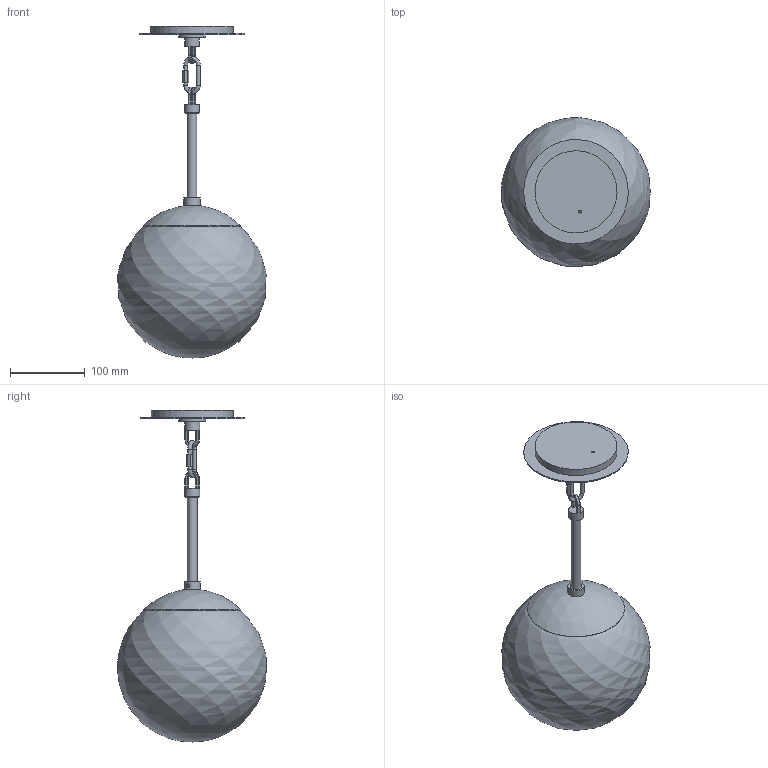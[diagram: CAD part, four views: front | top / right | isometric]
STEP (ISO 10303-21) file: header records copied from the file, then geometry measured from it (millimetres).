
FILE_DESCRIPTION(/* description */ (''),/* implementation_level */ '2;1');
FILE_NAME(/* name */ 'T:\B197 Opal Pendant 200\Pliki bryłowe handlowe\B197 Glass Globe Opal 200 3D files_na stronę\B197 Glass Globe Opal 200.stp',/* time_stamp */ '2022-02-02T15:12:00+01:00',/* author */ ('Mariusz Awariusz'),/* organization */ (''),/* preprocessor_version */ 'ST-DEVELOPER v18.1',/* originating_system */ 'Autodesk Inventor 2022',/* authorisation */ '');
FILE_SCHEMA (('AUTOMOTIVE_DESIGN { 1 0 10303 214 3 1 1 }'));
Length unit declared in the file: millimetre
Products named in the file (1): B197 Opal Pendant 200 CE v6_na potrzeby plików 3D_2_jako część_
korpusy bryłowe
Bounding box: 198.71 x 199.38 x 444.75 mm (x, y, z)
Volume: 419290.9 mm3; surface area: 346980.1 mm2
Topology: 16 solids, 17 shells, 242 faces, 534 edges, 322 vertices
Faces by surface type: plane 118, cylinder 70, cone 25, torus 15, bspline 10, sphere 4
Full cylindrical faces by diameter (mm): 4 x1, 5 x5, 10 x1, 13 x1, 14.6 x1, 16 x2, 16.2 x1, 20 x2, 22 x1, 34.5 x1, 36 x1, 80.221 x1, 110 x1, 140 x1
Entity records: 6875 total; most frequent: CARTESIAN_POINT 1527, DIRECTION 1153, ORIENTED_EDGE 1060, EDGE_CURVE 530, AXIS2_PLACEMENT_3D 446, VERTEX_POINT 322, LINE 261, VECTOR 261
